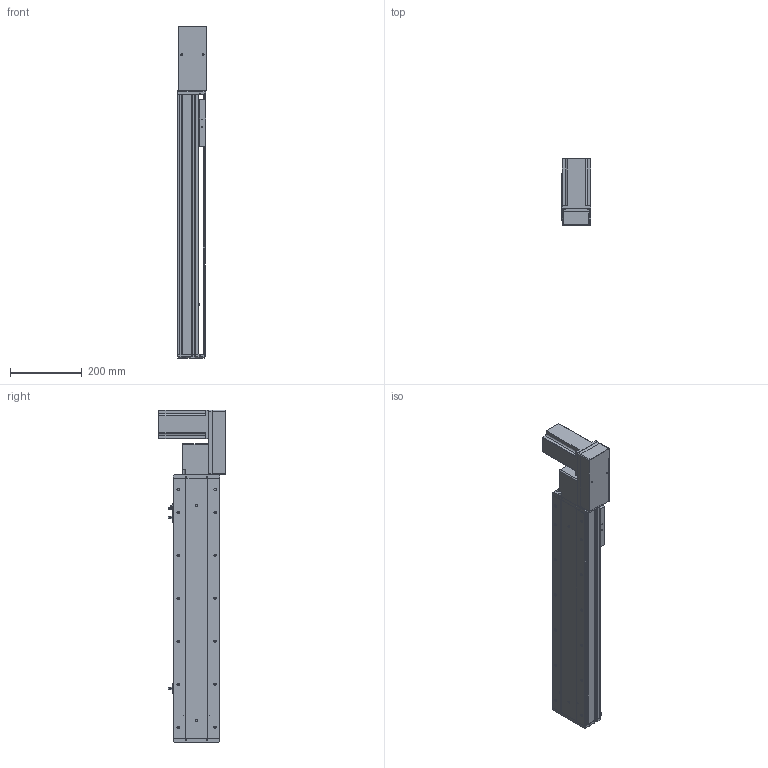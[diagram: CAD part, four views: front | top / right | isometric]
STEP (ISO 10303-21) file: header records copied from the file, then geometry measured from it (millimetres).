
FILE_DESCRIPTION (( 'STEP AP214' ), '1' );
FILE_NAME ('KSD130B-S500-MLB-CM.STEP', '2019-09-19T06:28:35', ( '微软用户' ), ( '微软中国' ), 'SwSTEP 2.0', 'SolidWorks 2014', '' );
FILE_SCHEMA (( 'AUTOMOTIVE_DESIGN' ));
Length unit declared in the file: millimetre
Products named in the file (12): 台达ECMA－C20807AS伺服电机; 130宽模组保护罩上下左右折-同步带; 130宽模组马达安装板连板左右折同步带; 覜茼え100遵圉猾敕; U倰嫖萇EEㄜSX672; 130宽盖板半封闭同步带-500行程; 130宽马达安装板同步带左-改; 130宽马达安装板同步带半封闭; 130宽同步带安装座半封闭; 130宽端盖同步带半封闭; 130宽底板半封闭同步带-500行程; KSD130B-S500-MLB-CM
Assembly tree (13 placements, depth 2):
  KSD130B-S500-MLB-CM
    130宽底板半封闭同步带-500行程
    130宽端盖同步带半封闭
    130宽同步带安装座半封闭
    130宽马达安装板同步带半封闭
    130宽马达安装板同步带左-改
    130宽盖板半封闭同步带-500行程
    U倰嫖萇EEㄜSX672  x3
    覜茼え100遵圉猾敕
    130宽模组马达安装板连板左右折同步带
    130宽模组保护罩上下左右折-同步带
    台达ECMA－C20807AS伺服电机
Bounding box: 82.5 x 184.8 x 927 mm (x, y, z)
Volume: 3638808.2 mm3; surface area: 948051.5 mm2
Topology: 14 solids, 14 shells, 1419 faces, 4001 edges, 2571 vertices
Faces by surface type: cylinder 666, plane 610, cone 143
Entity records: 45547 total; most frequent: CARTESIAN_POINT 8204, DIRECTION 6979, ORIENTED_EDGE 6702, EDGE_CURVE 3351, AXIS2_PLACEMENT_3D 2526, VERTEX_POINT 2195, VECTOR 1927, LINE 1927
